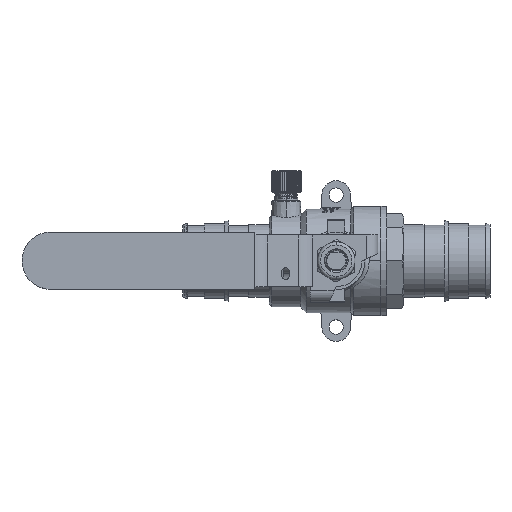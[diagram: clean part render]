
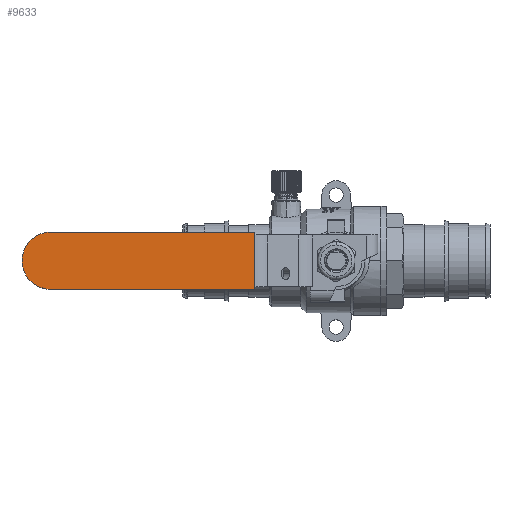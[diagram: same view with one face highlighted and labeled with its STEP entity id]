
A CAD part, top view. The second image highlights one B-rep face of the part: STEP entity #9633.
In plain terms, the highlighted planar face has unit normal (0, 0, 1).
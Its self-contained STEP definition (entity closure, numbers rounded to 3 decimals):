
#7070 = PLANE('',#7071);
#7071 = AXIS2_PLACEMENT_3D('',#7072,#7073,#7074);
#7072 = CARTESIAN_POINT('',(-28.314,10.,54.709));
#7073 = DIRECTION('',(-1.,0.,0.));
#7074 = DIRECTION('',(-0.,-1.,0.));
#9403 = VERTEX_POINT('',#9404);
#9404 = CARTESIAN_POINT('',(-28.314,-10.,54.709));
#9420 = PLANE('',#9421);
#9421 = AXIS2_PLACEMENT_3D('',#9422,#9423,#9424);
#9422 = CARTESIAN_POINT('',(0.,-10.,35.709));
#9423 = DIRECTION('',(0.,1.,0.));
#9424 = DIRECTION('',(-1.,0.,0.));
#9461 = VERTEX_POINT('',#9462);
#9462 = CARTESIAN_POINT('',(-28.314,10.,54.709));
#9476 = PLANE('',#9477);
#9477 = AXIS2_PLACEMENT_3D('',#9478,#9479,#9480);
#9478 = CARTESIAN_POINT('',(0.,10.,35.709));
#9479 = DIRECTION('',(0.,1.,0.));
#9480 = DIRECTION('',(-1.,0.,0.));
#9488 = EDGE_CURVE('',#9461,#9403,#9489,.T.);
#9489 = SURFACE_CURVE('',#9490,(#9494,#9501),.PCURVE_S1.);
#9490 = LINE('',#9491,#9492);
#9491 = CARTESIAN_POINT('',(-28.314,10.,54.709));
#9492 = VECTOR('',#9493,1.);
#9493 = DIRECTION('',(0.,-1.,0.));
#9494 = PCURVE('',#7070,#9495);
#9495 = DEFINITIONAL_REPRESENTATION('',(#9496),#9500);
#9496 = LINE('',#9497,#9498);
#9497 = CARTESIAN_POINT('',(-0.,0.));
#9498 = VECTOR('',#9499,1.);
#9499 = DIRECTION('',(1.,0.));
#9500 = ( GEOMETRIC_REPRESENTATION_CONTEXT(2) 
PARAMETRIC_REPRESENTATION_CONTEXT() REPRESENTATION_CONTEXT('2D SPACE',''
  ) );
#9501 = PCURVE('',#9502,#9507);
#9502 = PLANE('',#9503);
#9503 = AXIS2_PLACEMENT_3D('',#9504,#9505,#9506);
#9504 = CARTESIAN_POINT('',(-28.314,10.,54.709));
#9505 = DIRECTION('',(0.,0.,-1.));
#9506 = DIRECTION('',(0.,-1.,0.));
#9507 = DEFINITIONAL_REPRESENTATION('',(#9508),#9512);
#9508 = LINE('',#9509,#9510);
#9509 = CARTESIAN_POINT('',(0.,0.));
#9510 = VECTOR('',#9511,1.);
#9511 = DIRECTION('',(1.,0.));
#9512 = ( GEOMETRIC_REPRESENTATION_CONTEXT(2) 
PARAMETRIC_REPRESENTATION_CONTEXT() REPRESENTATION_CONTEXT('2D SPACE',''
  ) );
#9567 = CYLINDRICAL_SURFACE('',#9568,10.);
#9568 = AXIS2_PLACEMENT_3D('',#9569,#9570,#9571);
#9569 = CARTESIAN_POINT('',(-99.5,0.,54.709));
#9570 = DIRECTION('',(0.,0.,1.));
#9571 = DIRECTION('',(0.,1.,0.));
#9600 = CYLINDRICAL_SURFACE('',#9601,10.);
#9601 = AXIS2_PLACEMENT_3D('',#9602,#9603,#9604);
#9602 = CARTESIAN_POINT('',(-99.5,0.,35.709));
#9603 = DIRECTION('',(0.,0.,-1.));
#9604 = DIRECTION('',(0.,-1.,0.));
#9633 = ADVANCED_FACE('',(#9634),#9502,.F.);
#9634 = FACE_BOUND('',#9635,.T.);
#9635 = EDGE_LOOP('',(#9636,#9666,#9694,#9715,#9716));
#9636 = ORIENTED_EDGE('',*,*,#9637,.T.);
#9637 = EDGE_CURVE('',#9638,#9640,#9642,.T.);
#9638 = VERTEX_POINT('',#9639);
#9639 = CARTESIAN_POINT('',(-99.5,10.,54.709));
#9640 = VERTEX_POINT('',#9641);
#9641 = CARTESIAN_POINT('',(-109.5,0.,54.709));
#9642 = SURFACE_CURVE('',#9643,(#9648,#9659),.PCURVE_S1.);
#9643 = CIRCLE('',#9644,10.);
#9644 = AXIS2_PLACEMENT_3D('',#9645,#9646,#9647);
#9645 = CARTESIAN_POINT('',(-99.5,0.,54.709));
#9646 = DIRECTION('',(0.,0.,1.));
#9647 = DIRECTION('',(0.,-1.,0.));
#9648 = PCURVE('',#9502,#9649);
#9649 = DEFINITIONAL_REPRESENTATION('',(#9650),#9658);
#9650 = ( BOUNDED_CURVE() B_SPLINE_CURVE(2,(#9651,#9652,#9653,#9654,
#9655,#9656,#9657),.UNSPECIFIED.,.T.,.F.) B_SPLINE_CURVE_WITH_KNOTS((1,2
    ,2,2,2,1),(-2.094,0.,2.094,4.189,
6.283,8.378),.UNSPECIFIED.) CURVE() 
GEOMETRIC_REPRESENTATION_ITEM() RATIONAL_B_SPLINE_CURVE((1.,0.5,1.,0.5,
1.,0.5,1.)) REPRESENTATION_ITEM('') );
#9651 = CARTESIAN_POINT('',(20.,71.186));
#9652 = CARTESIAN_POINT('',(20.,53.866));
#9653 = CARTESIAN_POINT('',(5.,62.526));
#9654 = CARTESIAN_POINT('',(-10.,71.186));
#9655 = CARTESIAN_POINT('',(5.,79.847));
#9656 = CARTESIAN_POINT('',(20.,88.507));
#9657 = CARTESIAN_POINT('',(20.,71.186));
#9658 = ( GEOMETRIC_REPRESENTATION_CONTEXT(2) 
PARAMETRIC_REPRESENTATION_CONTEXT() REPRESENTATION_CONTEXT('2D SPACE',''
  ) );
#9659 = PCURVE('',#9600,#9660);
#9660 = DEFINITIONAL_REPRESENTATION('',(#9661),#9665);
#9661 = LINE('',#9662,#9663);
#9662 = CARTESIAN_POINT('',(6.283,-19.));
#9663 = VECTOR('',#9664,1.);
#9664 = DIRECTION('',(-1.,0.));
#9665 = ( GEOMETRIC_REPRESENTATION_CONTEXT(2) 
PARAMETRIC_REPRESENTATION_CONTEXT() REPRESENTATION_CONTEXT('2D SPACE',''
  ) );
#9666 = ORIENTED_EDGE('',*,*,#9667,.T.);
#9667 = EDGE_CURVE('',#9640,#9668,#9670,.T.);
#9668 = VERTEX_POINT('',#9669);
#9669 = CARTESIAN_POINT('',(-99.5,-10.,54.709));
#9670 = SURFACE_CURVE('',#9671,(#9676,#9687),.PCURVE_S1.);
#9671 = CIRCLE('',#9672,10.);
#9672 = AXIS2_PLACEMENT_3D('',#9673,#9674,#9675);
#9673 = CARTESIAN_POINT('',(-99.5,0.,54.709));
#9674 = DIRECTION('',(0.,0.,1.));
#9675 = DIRECTION('',(0.,-1.,0.));
#9676 = PCURVE('',#9502,#9677);
#9677 = DEFINITIONAL_REPRESENTATION('',(#9678),#9686);
#9678 = ( BOUNDED_CURVE() B_SPLINE_CURVE(2,(#9679,#9680,#9681,#9682,
#9683,#9684,#9685),.UNSPECIFIED.,.T.,.F.) B_SPLINE_CURVE_WITH_KNOTS((1,2
    ,2,2,2,1),(-2.094,0.,2.094,4.189,
6.283,8.378),.UNSPECIFIED.) CURVE() 
GEOMETRIC_REPRESENTATION_ITEM() RATIONAL_B_SPLINE_CURVE((1.,0.5,1.,0.5,
1.,0.5,1.)) REPRESENTATION_ITEM('') );
#9679 = CARTESIAN_POINT('',(20.,71.186));
#9680 = CARTESIAN_POINT('',(20.,53.866));
#9681 = CARTESIAN_POINT('',(5.,62.526));
#9682 = CARTESIAN_POINT('',(-10.,71.186));
#9683 = CARTESIAN_POINT('',(5.,79.847));
#9684 = CARTESIAN_POINT('',(20.,88.507));
#9685 = CARTESIAN_POINT('',(20.,71.186));
#9686 = ( GEOMETRIC_REPRESENTATION_CONTEXT(2) 
PARAMETRIC_REPRESENTATION_CONTEXT() REPRESENTATION_CONTEXT('2D SPACE',''
  ) );
#9687 = PCURVE('',#9567,#9688);
#9688 = DEFINITIONAL_REPRESENTATION('',(#9689),#9693);
#9689 = LINE('',#9690,#9691);
#9690 = CARTESIAN_POINT('',(-3.142,0.));
#9691 = VECTOR('',#9692,1.);
#9692 = DIRECTION('',(1.,0.));
#9693 = ( GEOMETRIC_REPRESENTATION_CONTEXT(2) 
PARAMETRIC_REPRESENTATION_CONTEXT() REPRESENTATION_CONTEXT('2D SPACE',''
  ) );
#9694 = ORIENTED_EDGE('',*,*,#9695,.T.);
#9695 = EDGE_CURVE('',#9668,#9403,#9696,.T.);
#9696 = SURFACE_CURVE('',#9697,(#9701,#9708),.PCURVE_S1.);
#9697 = LINE('',#9698,#9699);
#9698 = CARTESIAN_POINT('',(-28.314,-10.,54.709));
#9699 = VECTOR('',#9700,1.);
#9700 = DIRECTION('',(1.,0.,0.));
#9701 = PCURVE('',#9502,#9702);
#9702 = DEFINITIONAL_REPRESENTATION('',(#9703),#9707);
#9703 = LINE('',#9704,#9705);
#9704 = CARTESIAN_POINT('',(20.,0.));
#9705 = VECTOR('',#9706,1.);
#9706 = DIRECTION('',(0.,-1.));
#9707 = ( GEOMETRIC_REPRESENTATION_CONTEXT(2) 
PARAMETRIC_REPRESENTATION_CONTEXT() REPRESENTATION_CONTEXT('2D SPACE',''
  ) );
#9708 = PCURVE('',#9420,#9709);
#9709 = DEFINITIONAL_REPRESENTATION('',(#9710),#9714);
#9710 = LINE('',#9711,#9712);
#9711 = CARTESIAN_POINT('',(28.314,19.));
#9712 = VECTOR('',#9713,1.);
#9713 = DIRECTION('',(-1.,0.));
#9714 = ( GEOMETRIC_REPRESENTATION_CONTEXT(2) 
PARAMETRIC_REPRESENTATION_CONTEXT() REPRESENTATION_CONTEXT('2D SPACE',''
  ) );
#9715 = ORIENTED_EDGE('',*,*,#9488,.F.);
#9716 = ORIENTED_EDGE('',*,*,#9717,.F.);
#9717 = EDGE_CURVE('',#9638,#9461,#9718,.T.);
#9718 = SURFACE_CURVE('',#9719,(#9723,#9730),.PCURVE_S1.);
#9719 = LINE('',#9720,#9721);
#9720 = CARTESIAN_POINT('',(-28.314,10.,54.709));
#9721 = VECTOR('',#9722,1.);
#9722 = DIRECTION('',(1.,0.,0.));
#9723 = PCURVE('',#9502,#9724);
#9724 = DEFINITIONAL_REPRESENTATION('',(#9725),#9729);
#9725 = LINE('',#9726,#9727);
#9726 = CARTESIAN_POINT('',(0.,0.));
#9727 = VECTOR('',#9728,1.);
#9728 = DIRECTION('',(0.,-1.));
#9729 = ( GEOMETRIC_REPRESENTATION_CONTEXT(2) 
PARAMETRIC_REPRESENTATION_CONTEXT() REPRESENTATION_CONTEXT('2D SPACE',''
  ) );
#9730 = PCURVE('',#9476,#9731);
#9731 = DEFINITIONAL_REPRESENTATION('',(#9732),#9736);
#9732 = LINE('',#9733,#9734);
#9733 = CARTESIAN_POINT('',(28.314,19.));
#9734 = VECTOR('',#9735,1.);
#9735 = DIRECTION('',(-1.,0.));
#9736 = ( GEOMETRIC_REPRESENTATION_CONTEXT(2) 
PARAMETRIC_REPRESENTATION_CONTEXT() REPRESENTATION_CONTEXT('2D SPACE',''
  ) );
